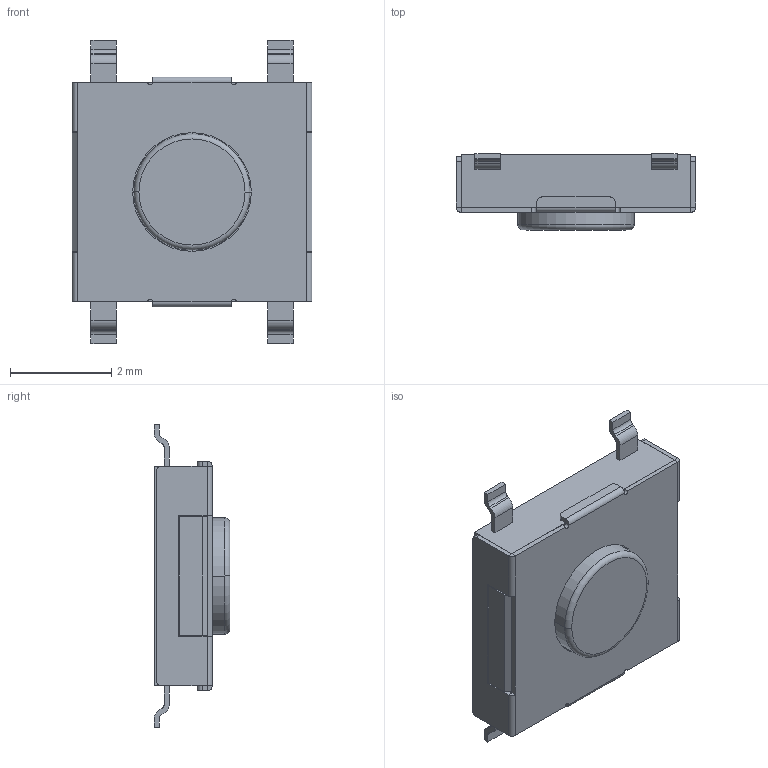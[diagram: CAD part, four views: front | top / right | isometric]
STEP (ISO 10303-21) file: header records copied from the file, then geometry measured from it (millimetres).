
FILE_DESCRIPTION((''),'2;1');
FILE_NAME('JQA4545C-B0151-01BG-1-105_ASM','2026-05-22T14:24:02',('Admin'),(''),'CREO PARAMETRIC BY PTC INC, 2019224','CREO PARAMETRIC BY PTC INC, 2019224','');
FILE_SCHEMA(('AUTOMOTIVE_DESIGN { 1 0 10303 214 1 1 1 1 }'));
Length unit declared in the file: millimetre
Products named in the file (3): JQA4545C-B0151-01BG-1-105_01; JQA4545C-B0151-01BG-1-105_02; JQA4545C-B0151-01BG-1-105_ASM
Assembly tree (2 placements, depth 2):
  JQA4545C-B0151-01BG-1-105_ASM
    JQA4545C-B0151-01BG-1-105_01
    JQA4545C-B0151-01BG-1-105_02
Bounding box: 4.75 x 1.5 x 6 mm (x, y, z)
Volume: 25.3 mm3; surface area: 115.8 mm2
Topology: 2 solids, 2 shells, 139 faces, 350 edges, 218 vertices
Faces by surface type: plane 99, cylinder 38, torus 2
Entity records: 4896 total; most frequent: DIRECTION 730, CARTESIAN_POINT 721, ORIENTED_EDGE 696, EDGE_CURVE 348, VECTOR 270, LINE 270, AXIS2_PLACEMENT_3D 230, VERTEX_POINT 214
